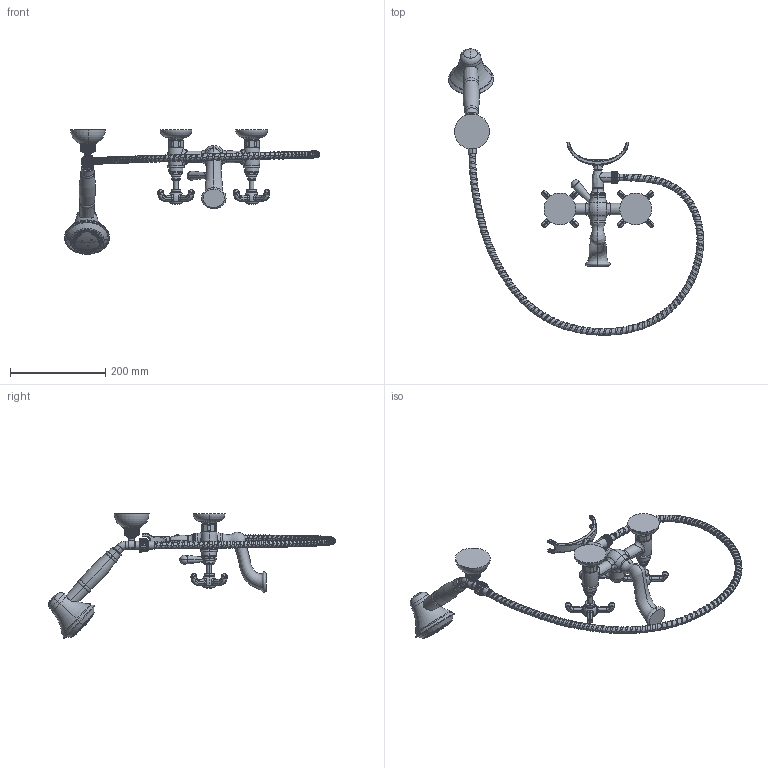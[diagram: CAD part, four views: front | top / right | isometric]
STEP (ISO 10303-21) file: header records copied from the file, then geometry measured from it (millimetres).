
FILE_DESCRIPTION (( 'STEP AP203' ), '1' );
FILE_NAME ('STEP.STEP', '2020-04-03T23:34:30', ( '' ), ( '' ), 'SwSTEP 2.0', 'SolidWorks 2019', '' );
FILE_SCHEMA (( 'CONFIG_CONTROL_DESIGN' ));
Length unit declared in the file: millimetre
Products named in the file (4): STEP; Part2; Part1; Part3
Assembly tree (3 placements, depth 2):
  STEP
    Part1
    Part2
    Part3
Bounding box: 535.82 x 601.76 x 261.94 mm (x, y, z)
Volume: 1278247.3 mm3; surface area: 215573.1 mm2
Topology: 3 solids, 3 shells, 1995 faces, 4917 edges, 3003 vertices
Faces by surface type: bspline 687, cylinder 481, torus 385, plane 237, sphere 156, cone 49
Entity records: 190327 total; most frequent: CARTESIAN_POINT 148230, ORIENTED_EDGE 9766, DIRECTION 7313, EDGE_CURVE 4883, AXIS2_PLACEMENT_3D 3139, VERTEX_POINT 2995, EDGE_LOOP 2096, B_SPLINE_CURVE_WITH_KNOTS 2018
